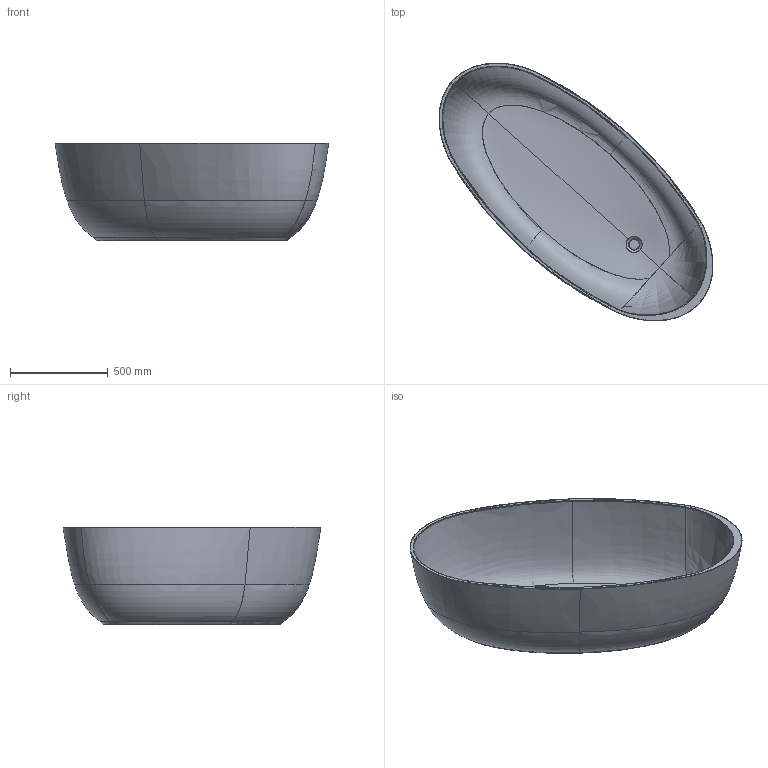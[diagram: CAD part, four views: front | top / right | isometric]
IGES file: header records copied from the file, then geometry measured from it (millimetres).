
Global section: file name: D:\Desktop\GIOVANNI\SCHEDE PRODOTTO\VASCHE\VASCHE FREESTANDING\GISELLE\3D\GISELLE.igs; native system: Rhinoceros ( Jan 17 2018 ); preprocessor: Trout Lake IGES 012 Jan 17 2018; date: 230531.101120; units: millimetre
Bounding box: 1400.29 x 1318.61 x 500 mm (x, y, z)
Surface area: 5098013 mm2 (no closed solid volume)
Topology: 0 solids, 0 shells, 117 faces, 1736 edges, 1752 vertices
Faces by surface type: bspline 117
